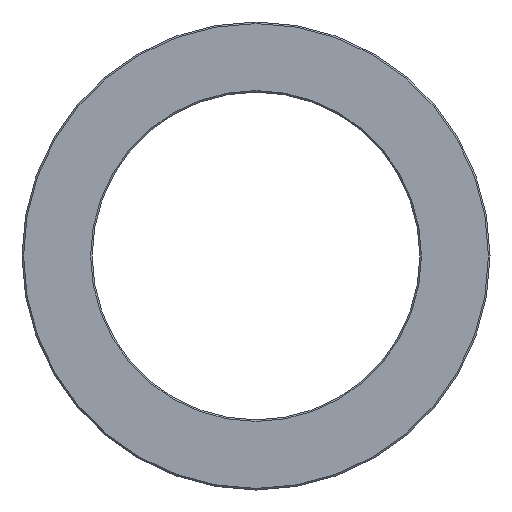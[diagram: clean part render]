
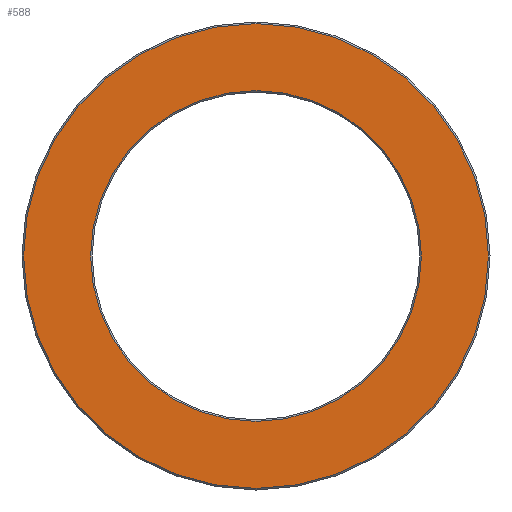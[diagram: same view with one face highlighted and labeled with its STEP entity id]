
A CAD part, left-side view. The second image highlights one B-rep face of the part: STEP entity #588.
In plain terms, the highlighted planar face has unit normal (-1, 0, 0).
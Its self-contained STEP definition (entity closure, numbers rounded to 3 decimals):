
#16 = DIRECTION ( 'NONE',  ( 1., 0., 0. ) ) ;
#17 = DIRECTION ( 'NONE',  ( 0., -1., 0. ) ) ;
#20 = CARTESIAN_POINT ( 'NONE',  ( -136., 0., 0. ) ) ;
#65 = DIRECTION ( 'NONE',  ( 0., -1., 0. ) ) ;
#67 = PLANE ( 'NONE',  #321 ) ;
#68 = FACE_OUTER_BOUND ( 'NONE', #292, .T. ) ;
#70 = FACE_BOUND ( 'NONE', #280, .T. ) ;
#71 = CARTESIAN_POINT ( 'NONE',  ( -136., 21., 0. ) ) ;
#73 = DIRECTION ( 'NONE',  ( -1., 0., 0. ) ) ;
#126 = CARTESIAN_POINT ( 'NONE',  ( -136., -29.8, 0. ) ) ;
#135 = CARTESIAN_POINT ( 'NONE',  ( -136., 21.2, 0. ) ) ;
#136 = CARTESIAN_POINT ( 'NONE',  ( -136., -21.2, 0. ) ) ;
#145 = CARTESIAN_POINT ( 'NONE',  ( -136., 29.8, 0. ) ) ;
#150 = VERTEX_POINT ( 'NONE', #145 ) ;
#163 = VERTEX_POINT ( 'NONE', #136 ) ;
#164 = VERTEX_POINT ( 'NONE', #135 ) ;
#173 = VERTEX_POINT ( 'NONE', #126 ) ;
#222 = ORIENTED_EDGE ( 'NONE', *, *, #626, .T. ) ;
#223 = ORIENTED_EDGE ( 'NONE', *, *, #613, .T. ) ;
#224 = ORIENTED_EDGE ( 'NONE', *, *, #615, .T. ) ;
#225 = ORIENTED_EDGE ( 'NONE', *, *, #597, .T. ) ;
#280 = EDGE_LOOP ( 'NONE', ( #225, #224 ) ) ;
#292 = EDGE_LOOP ( 'NONE', ( #223, #222 ) ) ;
#321 = AXIS2_PLACEMENT_3D ( 'NONE', #71, #73, #65 ) ;
#326 = AXIS2_PLACEMENT_3D ( 'NONE', #20, #16, #17 ) ;
#339 = CIRCLE ( 'NONE', #326, 21.2 ) ;
#356 = CIRCLE ( 'NONE', #372, 21.2 ) ;
#366 = CIRCLE ( 'NONE', #369, 29.8 ) ;
#368 = CIRCLE ( 'NONE', #389, 29.8 ) ;
#369 = AXIS2_PLACEMENT_3D ( 'NONE', #548, #546, #545 ) ;
#372 = AXIS2_PLACEMENT_3D ( 'NONE', #481, #522, #526 ) ;
#389 = AXIS2_PLACEMENT_3D ( 'NONE', #490, #497, #498 ) ;
#481 = CARTESIAN_POINT ( 'NONE',  ( -136., 0., 0. ) ) ;
#490 = CARTESIAN_POINT ( 'NONE',  ( -136., 0., 0. ) ) ;
#497 = DIRECTION ( 'NONE',  ( -1., 0., 0. ) ) ;
#498 = DIRECTION ( 'NONE',  ( 0., -1., 0. ) ) ;
#522 = DIRECTION ( 'NONE',  ( 1., 0., 0. ) ) ;
#526 = DIRECTION ( 'NONE',  ( 0., -1., 0. ) ) ;
#545 = DIRECTION ( 'NONE',  ( 0., -1., 0. ) ) ;
#546 = DIRECTION ( 'NONE',  ( -1., 0., 0. ) ) ;
#548 = CARTESIAN_POINT ( 'NONE',  ( -136., 0., 0. ) ) ;
#588 = ADVANCED_FACE ( 'NONE', ( #70, #68 ), #67, .T. ) ;
#597 = EDGE_CURVE ( 'NONE', #163, #164, #339, .T. ) ;
#613 = EDGE_CURVE ( 'NONE', #150, #173, #366, .T. ) ;
#615 = EDGE_CURVE ( 'NONE', #164, #163, #356, .T. ) ;
#626 = EDGE_CURVE ( 'NONE', #173, #150, #368, .T. ) ;
